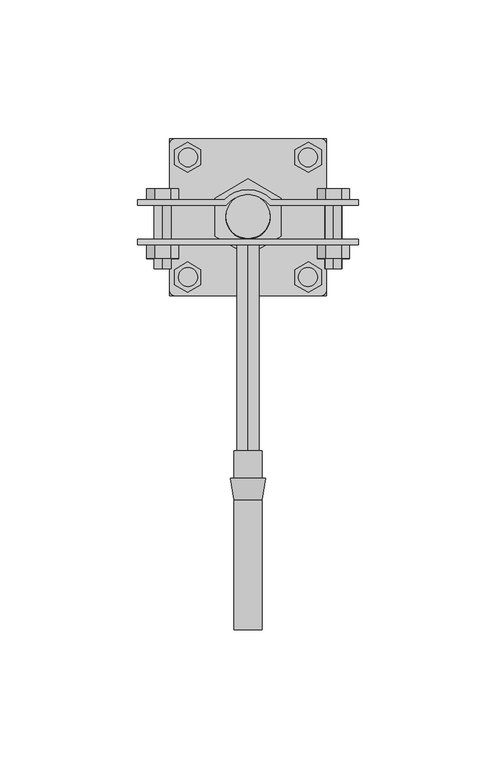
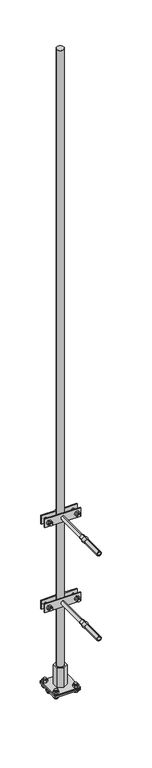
"""IFC4 building model written with IfcOpenShell, lengths in millimetres: proxy geometry, КНС_МолниеприемникСДержателями_DKC : NL7150CU_Медь_1.5м."""

from ifc_helpers import new_model, si_unit, point, frame, frame_2d, origin, origin_with_axes, place, context, project, spatial, polyline, circle_curve, trimmed, segment, composite_curve, outline, extrude, source, transform, mapped, element, save
from ifc_brep_helpers import plane_surface, cylinder_surface, revolved_surface, advanced_brep


def security_devices_15d1bd6b(model_context):
    return source(origin(), model_context, "Body", "SolidModel", [
        extrude(outline(composite_curve([segment(trimmed(circle_curve(frame_2d((0.0, 84.6885885)), 8.0), [point((0.0, 76.6885885))], [point((0.0, 92.6885885))], False, "CARTESIAN"), True, "CONTINUOUS"), segment(trimmed(circle_curve(frame_2d((0.0, 84.6885885)), 8.0), [point((0.0, 92.6885885))], [point((0.0, 76.6885885))], False, "CARTESIAN"), True, "CONTINUOUS")], self_intersect=False)), frame((0.0, 0.0, 2.5), z_axis=(0.0, 0.0, 1.0), x_axis=(1.0, 0.0, 0.0)), (0.0, 0.0, 1.0), 45.0),
        extrude(outline(composite_curve([segment(polyline([(56.1885885, -3.5), (56.1885885, -1.0), (79.6885885, -1.0)]), True, "CONTINUOUS"), segment(trimmed(circle_curve(frame_2d((84.6885885, -1.0)), 5.0), [point((79.6885885, -1.0))], [point((89.6885885, -1.0))], True, "CARTESIAN"), True, "CONTINUOUS"), segment(polyline([(89.6885885, -1.0), (113.1885885, -1.0), (113.1885885, -3.5), (91.7596563, -3.5)]), True, "CONTINUOUS"), segment(trimmed(circle_curve(frame_2d((84.6885885, -1.0)), 7.5), [point((91.7596563, -3.5))], [point((77.6175207, -3.5))], False, "CARTESIAN"), True, "CONTINUOUS"), segment(polyline([(77.6175207, -3.5), (56.1885885, -3.5)]), True, "CONTINUOUS")], self_intersect=False)), frame((-28.5, 0.0, 0.0), z_axis=(1.0, 0.0, 0.0), x_axis=(0.0, 1.0, 0.0)), (0.0, 0.0, 1.0), 57.0),
        extrude(outline(composite_curve([segment(trimmed(circle_curve(frame_2d((-21.78125, 62.9764828)), 3.4209609), [point((-21.78125, 59.5555219))], [point((-21.78125, 66.3974437))], False, "CARTESIAN"), True, "CONTINUOUS"), segment(trimmed(circle_curve(frame_2d((-21.78125, 62.9764828)), 3.4209609), [point((-21.78125, 66.3974437))], [point((-21.78125, 59.5555219))], False, "CARTESIAN"), True, "CONTINUOUS")], self_intersect=False)), frame((0.0, 0.0, -3.5), z_axis=(0.0, 0.0, 1.0), x_axis=(1.0, 0.0, 0.0)), (0.0, 0.0, 1.0), 13.5),
        extrude(outline(composite_curve([segment(trimmed(circle_curve(frame_2d((-21.78125, 106.4006942)), 3.4209609), [point((-21.78125, 102.9797333))], [point((-21.78125, 109.8216551))], False, "CARTESIAN"), True, "CONTINUOUS"), segment(trimmed(circle_curve(frame_2d((-21.78125, 106.4006942)), 3.4209609), [point((-21.78125, 109.8216551))], [point((-21.78125, 102.9797333))], False, "CARTESIAN"), True, "CONTINUOUS")], self_intersect=False)), frame((0.0, 0.0, -3.5), z_axis=(0.0, 0.0, 1.0), x_axis=(1.0, 0.0, 0.0)), (0.0, 0.0, 1.0), 13.5),
        extrude(outline(composite_curve([segment(trimmed(circle_curve(frame_2d((21.78125, 62.9764828)), 3.4209609), [point((21.78125, 59.5555219))], [point((21.78125, 66.3974437))], False, "CARTESIAN"), True, "CONTINUOUS"), segment(trimmed(circle_curve(frame_2d((21.78125, 62.9764828)), 3.4209609), [point((21.78125, 66.3974437))], [point((21.78125, 59.5555219))], False, "CARTESIAN"), True, "CONTINUOUS")], self_intersect=False)), frame((0.0, 0.0, -3.5), z_axis=(0.0, 0.0, 1.0), x_axis=(1.0, 0.0, 0.0)), (0.0, 0.0, 1.0), 13.5),
        extrude(outline(composite_curve([segment(trimmed(circle_curve(frame_2d((21.78125, 106.4006942)), 3.4209609), [point((21.78125, 102.9797333))], [point((21.78125, 109.8216551))], False, "CARTESIAN"), True, "CONTINUOUS"), segment(trimmed(circle_curve(frame_2d((21.78125, 106.4006942)), 3.4209609), [point((21.78125, 109.8216551))], [point((21.78125, 102.9797333))], False, "CARTESIAN"), True, "CONTINUOUS")], self_intersect=False)), frame((0.0, 0.0, -3.5), z_axis=(0.0, 0.0, 1.0), x_axis=(1.0, 0.0, 0.0)), (0.0, 0.0, 1.0), 13.5),
        extrude(outline(polyline([(-21.8883083, 57.4889661), (-26.6406371, 60.2327244), (-26.6406371, 65.7202411), (-21.8883083, 68.4639995), (-17.1359794, 65.7202411), (-17.1359794, 60.2327244), (-21.8883083, 57.4889661)])), frame((0.0, 0.0, 2.5), z_axis=(0.0, 0.0, 1.0), x_axis=(1.0, 0.0, 0.0)), (0.0, 0.0, 1.0), 5.0),
        extrude(outline(polyline([(-21.8883083, 111.8882109), (-17.1359794, 109.1444525), (-17.1359794, 103.6569358), (-21.8883083, 100.9131775), (-26.6406371, 103.6569358), (-26.6406371, 109.1444525), (-21.8883083, 111.8882109)])), frame((0.0, 0.0, 2.5), z_axis=(0.0, 0.0, 1.0), x_axis=(1.0, 0.0, 0.0)), (0.0, 0.0, 1.0), 5.0),
        extrude(outline(polyline([(21.8883083, 57.4889661), (17.1359794, 60.2327244), (17.1359794, 65.7202411), (21.8883083, 68.4639995), (26.6406371, 65.7202411), (26.6406371, 60.2327244), (21.8883083, 57.4889661)])), frame((0.0, 0.0, 2.5), z_axis=(0.0, 0.0, 1.0), x_axis=(1.0, 0.0, 0.0)), (0.0, 0.0, 1.0), 5.0),
        extrude(outline(polyline([(21.8883083, 111.8882109), (26.6406371, 109.1444525), (26.6406371, 103.6569358), (21.8883083, 100.9131775), (17.1359794, 103.6569358), (17.1359794, 109.1444525), (21.8883083, 111.8882109)])), frame((0.0, 0.0, 2.5), z_axis=(0.0, 0.0, 1.0), x_axis=(1.0, 0.0, 0.0)), (0.0, 0.0, 1.0), 5.0),
        extrude(outline(polyline([(-21.8883083, 57.4889661), (-26.6406371, 60.2327244), (-26.6406371, 65.7202411), (-21.8883083, 68.4639995), (-17.1359794, 65.7202411), (-17.1359794, 60.2327244), (-21.8883083, 57.4889661)])), frame((0.0, 0.0, -8.5), z_axis=(0.0, 0.0, 1.0), x_axis=(1.0, 0.0, 0.0)), (0.0, 0.0, 1.0), 5.0),
        extrude(outline(polyline([(-21.8883083, 111.8882109), (-17.1359794, 109.1444525), (-17.1359794, 103.6569358), (-21.8883083, 100.9131775), (-26.6406371, 103.6569358), (-26.6406371, 109.1444525), (-21.8883083, 111.8882109)])), frame((0.0, 0.0, -8.5), z_axis=(0.0, 0.0, 1.0), x_axis=(1.0, 0.0, 0.0)), (0.0, 0.0, 1.0), 5.0),
        extrude(outline(polyline([(21.8883083, 57.4889661), (17.1359794, 60.2327244), (17.1359794, 65.7202411), (21.8883083, 68.4639995), (26.6406371, 65.7202411), (26.6406371, 60.2327244), (21.8883083, 57.4889661)])), frame((0.0, 0.0, -8.5), z_axis=(0.0, 0.0, 1.0), x_axis=(1.0, 0.0, 0.0)), (0.0, 0.0, 1.0), 5.0),
        extrude(outline(polyline([(21.8883083, 111.8882109), (26.6406371, 109.1444525), (26.6406371, 103.6569358), (21.8883083, 100.9131775), (17.1359794, 103.6569358), (17.1359794, 109.1444525), (21.8883083, 111.8882109)])), frame((0.0, 0.0, -8.5), z_axis=(0.0, 0.0, 1.0), x_axis=(1.0, 0.0, 0.0)), (0.0, 0.0, 1.0), 5.0),
        extrude(outline(composite_curve([segment(trimmed(circle_curve(frame_2d((-26.5, 111.1885885)), 2.0), [point((-28.5, 111.1885885))], [point((-26.5, 113.1885885))], False, "CARTESIAN"), True, "CONTINUOUS"), segment(polyline([(-26.5, 113.1885885), (26.5, 113.1885885)]), True, "CONTINUOUS"), segment(trimmed(circle_curve(frame_2d((26.5, 111.1885885)), 2.0), [point((26.5, 113.1885885))], [point((28.5, 111.1885885))], False, "CARTESIAN"), True, "CONTINUOUS"), segment(polyline([(28.5, 111.1885885), (28.5, 58.1885885)]), True, "CONTINUOUS"), segment(trimmed(circle_curve(frame_2d((26.5, 58.1885885)), 2.0), [point((28.5, 58.1885885))], [point((26.5, 56.1885885))], False, "CARTESIAN"), True, "CONTINUOUS"), segment(polyline([(26.5, 56.1885885), (-26.5, 56.1885885)]), True, "CONTINUOUS"), segment(trimmed(circle_curve(frame_2d((-26.5, 58.1885885)), 2.0), [point((-26.5, 56.1885885))], [point((-28.5, 58.1885885))], False, "CARTESIAN"), True, "CONTINUOUS"), segment(polyline([(-28.5, 58.1885885), (-28.5, 111.1885885)]), True, "CONTINUOUS")], self_intersect=False)), origin_with_axes(), (0.0, 0.0, 1.0), 2.5),
        advanced_brep(
        [(-40.0, 74.6885885, 410.0), (40.0, 74.6885885, 410.0), (40.0, 76.6885885, 410.0), (-40.0, 76.6885885, 410.0), (-40.0, 74.6885885, 390.0), (-40.0, 76.6885885, 390.0), (40.0, 76.6885885, 390.0), (40.0, 74.6885885, 390.0), (0.0, 74.6885885, 404.0), (0.0, 74.6885885, 396.0), (0.0, -65.0, 396.0), (0.0, -65.0, 404.0)],
        [
            (0, 1),
            (1, 2),
            (2, 3),
            (3, 0),
            (4, 5),
            (5, 6),
            (6, 7),
            (7, 4),
            (0, 4),
            (7, 1),
            (8, 9, circle_curve(frame((0.0, 74.6885885, 400.0), z_axis=(0.0, 1.0, 0.0), x_axis=(0.0, 0.0, 1.0)), 4.0)),
            (9, 8, circle_curve(frame((0.0, 74.6885885, 400.0), z_axis=(0.0, 1.0, 0.0), x_axis=(0.0, 0.0, 1.0)), 4.0)),
            (6, 2),
            (5, 3),
            (10, 11, circle_curve(frame((0.0, -65.0, 400.0), z_axis=(0.0, -1.0, 0.0), x_axis=(0.0, 0.0, 1.0)), 4.0)),
            (11, 10, circle_curve(frame((0.0, -65.0, 400.0), z_axis=(0.0, -1.0, 0.0), x_axis=(0.0, 0.0, 1.0)), 4.0)),
            (10, 9),
            (8, 11),
        ],
        [
            plane_surface(frame((-40.0, 74.6885885, 410.0), z_axis=(0.0, 0.0, 1.0), x_axis=(1.0, 0.0, 0.0))),
            plane_surface(frame((-40.0, 74.6885885, 390.0), z_axis=(0.0, 0.0, -1.0), x_axis=(-1.0, 0.0, 0.0))),
            plane_surface(frame((-40.0, 74.6885885, 410.0), z_axis=(0.0, -1.0, 0.0), x_axis=(0.0, 0.0, -1.0))),
            plane_surface(frame((40.0, 74.6885885, 410.0), z_axis=(1.0, 0.0, 0.0), x_axis=(0.0, 0.0, -1.0))),
            plane_surface(frame((40.0, 76.6885885, 410.0), z_axis=(0.0, 1.0, 0.0), x_axis=(0.0, 0.0, -1.0))),
            plane_surface(frame((-40.0, 76.6885885, 410.0), z_axis=(-1.0, 0.0, 0.0), x_axis=(0.0, 0.0, -1.0))),
            plane_surface(frame((0.0, -65.0, 404.0), z_axis=(0.0, -1.0, 0.0), x_axis=(-1.0, 0.0, 0.0))),
            cylinder_surface(frame((0.0, 76.6885885, 400.0), z_axis=(0.0, -1.0, 0.0), x_axis=(0.0, 0.0, 1.0)), 4.0),
        ],
        [
            (0, [[1, 2, 3, 4]]),
            (1, [[5, 6, 7, 8]]),
            (2, [[-1, 9, -8, 10], [11, 12]]),
            (3, [[-2, -10, -7, 13]]),
            (4, [[-3, -13, -6, 14]]),
            (5, [[-4, -14, -5, -9]]),
            (6, [[15, 16]]),
            (7, [[-15, 17, -11, 18]]),
            (7, [[-16, -18, -12, -17]]),
        ],
    ),
        advanced_brep(
        [(6.3810583, -10.0, 400.0), (-6.3810583, -10.0, 400.0), (-5.0, -10.0, 400.0), (5.0, -10.0, 400.0), (5.0, -17.8323707, 400.0), (-5.0, -17.8323707, 400.0), (5.0, -65.0, 400.0), (-5.0, -65.0, 400.0), (3.0, -65.0, 400.0), (-3.0, -65.0, 400.0), (3.0, 0.0, 400.0), (-3.0, 0.0, 400.0), (5.0, 0.0, 400.0), (-5.0, 0.0, 400.0)],
        [
            (0, 1, circle_curve(frame((0.0, -10.0, 400.0), z_axis=(0.0, 1.0, 0.0), x_axis=(-1.0, 0.0, 0.0)), 6.3810583)),
            (1, 2),
            (2, 3, circle_curve(frame((0.0, -10.0, 400.0), z_axis=(0.0, -1.0, 0.0), x_axis=(-1.0, 0.0, 0.0)), 5.0)),
            (3, 0),
            (1, 0, circle_curve(frame((0.0, -10.0, 400.0), z_axis=(0.0, 1.0, 0.0), x_axis=(-1.0, 0.0, 0.0)), 6.3810583)),
            (3, 2, circle_curve(frame((0.0, -10.0, 400.0), z_axis=(0.0, -1.0, 0.0), x_axis=(-1.0, 0.0, 0.0)), 5.0)),
            (4, 5, circle_curve(frame((0.0, -17.8323707, 400.0), z_axis=(0.0, 1.0, 0.0), x_axis=(-1.0, 0.0, 0.0)), 5.0)),
            (5, 1),
            (0, 4),
            (5, 4, circle_curve(frame((0.0, -17.8323707, 400.0), z_axis=(0.0, 1.0, 0.0), x_axis=(-1.0, 0.0, 0.0)), 5.0)),
            (6, 7, circle_curve(frame((0.0, -65.0, 400.0), z_axis=(0.0, 1.0, 0.0), x_axis=(-1.0, 0.0, 0.0)), 5.0)),
            (7, 5),
            (4, 6),
            (7, 6, circle_curve(frame((0.0, -65.0, 400.0), z_axis=(0.0, 1.0, 0.0), x_axis=(-1.0, 0.0, 0.0)), 5.0)),
            (8, 9, circle_curve(frame((0.0, -65.0, 400.0), z_axis=(0.0, 1.0, 0.0), x_axis=(-1.0, 0.0, 0.0)), 3.0)),
            (9, 7),
            (6, 8),
            (9, 8, circle_curve(frame((0.0, -65.0, 400.0), z_axis=(0.0, 1.0, 0.0), x_axis=(-1.0, 0.0, 0.0)), 3.0)),
            (10, 11, circle_curve(frame((0.0, 0.0, 400.0), z_axis=(0.0, 1.0, 0.0), x_axis=(-1.0, 0.0, 0.0)), 3.0)),
            (11, 9),
            (8, 10),
            (11, 10, circle_curve(frame((0.0, 0.0, 400.0), z_axis=(0.0, 1.0, 0.0), x_axis=(-1.0, 0.0, 0.0)), 3.0)),
            (12, 13, circle_curve(frame((0.0, 0.0, 400.0), z_axis=(0.0, 1.0, 0.0), x_axis=(-1.0, 0.0, 0.0)), 5.0)),
            (13, 11),
            (10, 12),
            (13, 12, circle_curve(frame((0.0, 0.0, 400.0), z_axis=(0.0, 1.0, 0.0), x_axis=(-1.0, 0.0, 0.0)), 5.0)),
            (2, 13),
            (12, 3),
        ],
        [
            plane_surface(frame((0.0, -10.0, 400.0), z_axis=(0.0, 1.0, 0.0), x_axis=(-1.0, 0.0, 0.0))),
            revolved_surface(polyline([(-6.3810583, -10.0, 400.0), (-5.0, -17.8323707, 400.0)]), (0.0, 2000.0, 400.0), (0.0, -1.0, 0.0)),
            cylinder_surface(frame((0.0, 2000.0, 400.0), z_axis=(0.0, -1.0, 0.0), x_axis=(-1.0, 0.0, 0.0)), 5.0),
            plane_surface(frame((0.0, -65.0, 400.0), z_axis=(0.0, -1.0, 0.0), x_axis=(-1.0, 0.0, 0.0))),
            revolved_surface(polyline([(-3.0, -65.0, 400.0), (-3.0, 0.0, 400.0)]), (0.0, 2000.0, 400.0), (0.0, -1.0, 0.0)),
            plane_surface(frame((0.0, 0.0, 400.0), z_axis=(0.0, 1.0, 0.0), x_axis=(-1.0, 0.0, 0.0))),
        ],
        [
            (0, [[1, 2, 3, 4]]),
            (0, [[5, -4, 6, -2]]),
            (1, [[7, 8, -1, 9]]),
            (1, [[10, -9, -5, -8]]),
            (2, [[11, 12, -7, 13]]),
            (2, [[14, -13, -10, -12]]),
            (3, [[15, 16, -11, 17]]),
            (3, [[18, -17, -14, -16]]),
            (4, [[19, 20, -15, 21]]),
            (4, [[22, -21, -18, -20]]),
            (5, [[23, 24, -19, 25]]),
            (5, [[26, -25, -22, -24]]),
            (2, [[-3, 27, -23, 28]]),
            (2, [[-6, -28, -26, -27]]),
        ],
    ),
        extrude(outline(polyline([(400.0, 36.7735027), (405.0, 33.8867513), (405.0, 28.1132487), (400.0, 25.2264973), (395.0, 28.1132487), (395.0, 33.8867513), (400.0, 36.7735027)])), frame((0.0, 69.6885885, 0.0), z_axis=(0.0, 1.0, 0.0), x_axis=(0.0, 0.0, 1.0)), (0.0, 0.0, 1.0), 5.0),
        extrude(outline(polyline([(400.0, -25.2264973), (405.0, -28.1132487), (405.0, -33.8867513), (400.0, -36.7735027), (395.0, -33.8867513), (395.0, -28.1132487), (400.0, -25.2264973)])), frame((0.0, 69.6885885, 0.0), z_axis=(0.0, 1.0, 0.0), x_axis=(0.0, 0.0, 1.0)), (0.0, 0.0, 1.0), 5.0),
        extrude(outline(composite_curve([segment(trimmed(circle_curve(frame_2d((400.0, 31.0)), 3.0), [point((397.0, 31.0))], [point((403.0, 31.0))], False, "CARTESIAN"), True, "CONTINUOUS"), segment(trimmed(circle_curve(frame_2d((400.0, 31.0)), 3.0), [point((403.0, 31.0))], [point((397.0, 31.0))], False, "CARTESIAN"), True, "CONTINUOUS")], self_intersect=False)), frame((0.0, 66.0, 0.0), z_axis=(0.0, 1.0, 0.0), x_axis=(0.0, 0.0, 1.0)), (0.0, 0.0, 1.0), 25.0),
        extrude(outline(polyline([(400.0, 36.7735027), (405.0, 33.8867513), (405.0, 28.1132487), (400.0, 25.2264973), (395.0, 28.1132487), (395.0, 33.8867513), (400.0, 36.7735027)])), frame((0.0, 91.0, 0.0), z_axis=(0.0, 1.0, 0.0), x_axis=(0.0, 0.0, 1.0)), (0.0, 0.0, 1.0), 4.0),
        extrude(outline(polyline([(400.0, -25.2264973), (405.0, -28.1132487), (405.0, -33.8867513), (400.0, -36.7735027), (395.0, -33.8867513), (395.0, -28.1132487), (400.0, -25.2264973)])), frame((0.0, 91.0, 0.0), z_axis=(0.0, 1.0, 0.0), x_axis=(0.0, 0.0, 1.0)), (0.0, 0.0, 1.0), 4.0),
        extrude(outline(composite_curve([segment(trimmed(circle_curve(frame_2d((400.0, -31.0)), 3.0), [point((397.0, -31.0))], [point((403.0, -31.0))], False, "CARTESIAN"), True, "CONTINUOUS"), segment(trimmed(circle_curve(frame_2d((400.0, -31.0)), 3.0), [point((403.0, -31.0))], [point((397.0, -31.0))], False, "CARTESIAN"), True, "CONTINUOUS")], self_intersect=False)), frame((0.0, 66.0, 0.0), z_axis=(0.0, 1.0, 0.0), x_axis=(0.0, 0.0, 1.0)), (0.0, 0.0, 1.0), 25.0),
        extrude(outline(composite_curve([segment(trimmed(circle_curve(frame_2d((0.0, 82.8700945)), 11.7620306), [point((-8.5, 91.0))], [point((8.5, 91.0))], False, "CARTESIAN"), True, "CONTINUOUS"), segment(polyline([(8.5, 91.0), (40.0, 91.0), (40.0, 89.0), (7.9035116, 89.0)]), True, "CONTINUOUS"), segment(trimmed(circle_curve(frame_2d((0.0, 82.3768959)), 10.3116926), [point((7.9035116, 89.0))], [point((-7.9035116, 89.0))], True, "CARTESIAN"), True, "CONTINUOUS"), segment(polyline([(-7.9035116, 89.0), (-40.0, 89.0), (-40.0, 91.0), (-8.5, 91.0)]), True, "CONTINUOUS")], self_intersect=False)), frame((0.0, 0.0, 390.0), z_axis=(0.0, 0.0, 1.0), x_axis=(1.0, 0.0, 0.0)), (0.0, 0.0, 1.0), 20.0),
        advanced_brep(
        [(-40.0, 74.6885885, 210.0), (40.0, 74.6885885, 210.0), (40.0, 76.6885885, 210.0), (-40.0, 76.6885885, 210.0), (-40.0, 74.6885885, 190.0), (-40.0, 76.6885885, 190.0), (40.0, 76.6885885, 190.0), (40.0, 74.6885885, 190.0), (0.0, 74.6885885, 204.0), (0.0, 74.6885885, 196.0), (0.0, -65.0, 196.0), (0.0, -65.0, 204.0)],
        [
            (0, 1),
            (1, 2),
            (2, 3),
            (3, 0),
            (4, 5),
            (5, 6),
            (6, 7),
            (7, 4),
            (0, 4),
            (7, 1),
            (8, 9, circle_curve(frame((0.0, 74.6885885, 200.0), z_axis=(0.0, 1.0, 0.0), x_axis=(0.0, 0.0, 1.0)), 4.0)),
            (9, 8, circle_curve(frame((0.0, 74.6885885, 200.0), z_axis=(0.0, 1.0, 0.0), x_axis=(0.0, 0.0, 1.0)), 4.0)),
            (6, 2),
            (5, 3),
            (10, 11, circle_curve(frame((0.0, -65.0, 200.0), z_axis=(0.0, -1.0, 0.0), x_axis=(0.0, 0.0, 1.0)), 4.0)),
            (11, 10, circle_curve(frame((0.0, -65.0, 200.0), z_axis=(0.0, -1.0, 0.0), x_axis=(0.0, 0.0, 1.0)), 4.0)),
            (10, 9),
            (8, 11),
        ],
        [
            plane_surface(frame((-40.0, 74.6885885, 210.0), z_axis=(0.0, 0.0, 1.0), x_axis=(1.0, 0.0, 0.0))),
            plane_surface(frame((-40.0, 74.6885885, 190.0), z_axis=(0.0, 0.0, -1.0), x_axis=(-1.0, 0.0, 0.0))),
            plane_surface(frame((-40.0, 74.6885885, 210.0), z_axis=(0.0, -1.0, 0.0), x_axis=(0.0, 0.0, -1.0))),
            plane_surface(frame((40.0, 74.6885885, 210.0), z_axis=(1.0, 0.0, 0.0), x_axis=(0.0, 0.0, -1.0))),
            plane_surface(frame((40.0, 76.6885885, 210.0), z_axis=(0.0, 1.0, 0.0), x_axis=(0.0, 0.0, -1.0))),
            plane_surface(frame((-40.0, 76.6885885, 210.0), z_axis=(-1.0, 0.0, 0.0), x_axis=(0.0, 0.0, -1.0))),
            plane_surface(frame((0.0, -65.0, 204.0), z_axis=(0.0, -1.0, 0.0), x_axis=(-1.0, 0.0, 0.0))),
            cylinder_surface(frame((0.0, 76.6885885, 200.0), z_axis=(0.0, -1.0, 0.0), x_axis=(0.0, 0.0, 1.0)), 4.0),
        ],
        [
            (0, [[1, 2, 3, 4]]),
            (1, [[5, 6, 7, 8]]),
            (2, [[-1, 9, -8, 10], [11, 12]]),
            (3, [[-2, -10, -7, 13]]),
            (4, [[-3, -13, -6, 14]]),
            (5, [[-4, -14, -5, -9]]),
            (6, [[15, 16]]),
            (7, [[-15, 17, -11, 18]]),
            (7, [[-16, -18, -12, -17]]),
        ],
    ),
        advanced_brep(
        [(6.3810583, -10.0, 200.0), (-6.3810583, -10.0, 200.0), (-5.0, -10.0, 200.0), (5.0, -10.0, 200.0), (5.0, -17.8323707, 200.0), (-5.0, -17.8323707, 200.0), (5.0, -65.0, 200.0), (-5.0, -65.0, 200.0), (3.0, -65.0, 200.0), (-3.0, -65.0, 200.0), (3.0, 0.0, 200.0), (-3.0, 0.0, 200.0), (5.0, 0.0, 200.0), (-5.0, 0.0, 200.0)],
        [
            (0, 1, circle_curve(frame((0.0, -10.0, 200.0), z_axis=(0.0, 1.0, 0.0), x_axis=(-1.0, 0.0, 0.0)), 6.3810583)),
            (1, 2),
            (2, 3, circle_curve(frame((0.0, -10.0, 200.0), z_axis=(0.0, -1.0, 0.0), x_axis=(-1.0, 0.0, 0.0)), 5.0)),
            (3, 0),
            (1, 0, circle_curve(frame((0.0, -10.0, 200.0), z_axis=(0.0, 1.0, 0.0), x_axis=(-1.0, 0.0, 0.0)), 6.3810583)),
            (3, 2, circle_curve(frame((0.0, -10.0, 200.0), z_axis=(0.0, -1.0, 0.0), x_axis=(-1.0, 0.0, 0.0)), 5.0)),
            (4, 5, circle_curve(frame((0.0, -17.8323707, 200.0), z_axis=(0.0, 1.0, 0.0), x_axis=(-1.0, 0.0, 0.0)), 5.0)),
            (5, 1),
            (0, 4),
            (5, 4, circle_curve(frame((0.0, -17.8323707, 200.0), z_axis=(0.0, 1.0, 0.0), x_axis=(-1.0, 0.0, 0.0)), 5.0)),
            (6, 7, circle_curve(frame((0.0, -65.0, 200.0), z_axis=(0.0, 1.0, 0.0), x_axis=(-1.0, 0.0, 0.0)), 5.0)),
            (7, 5),
            (4, 6),
            (7, 6, circle_curve(frame((0.0, -65.0, 200.0), z_axis=(0.0, 1.0, 0.0), x_axis=(-1.0, 0.0, 0.0)), 5.0)),
            (8, 9, circle_curve(frame((0.0, -65.0, 200.0), z_axis=(0.0, 1.0, 0.0), x_axis=(-1.0, 0.0, 0.0)), 3.0)),
            (9, 7),
            (6, 8),
            (9, 8, circle_curve(frame((0.0, -65.0, 200.0), z_axis=(0.0, 1.0, 0.0), x_axis=(-1.0, 0.0, 0.0)), 3.0)),
            (10, 11, circle_curve(frame((0.0, 0.0, 200.0), z_axis=(0.0, 1.0, 0.0), x_axis=(-1.0, 0.0, 0.0)), 3.0)),
            (11, 9),
            (8, 10),
            (11, 10, circle_curve(frame((0.0, 0.0, 200.0), z_axis=(0.0, 1.0, 0.0), x_axis=(-1.0, 0.0, 0.0)), 3.0)),
            (12, 13, circle_curve(frame((0.0, 0.0, 200.0), z_axis=(0.0, 1.0, 0.0), x_axis=(-1.0, 0.0, 0.0)), 5.0)),
            (13, 11),
            (10, 12),
            (13, 12, circle_curve(frame((0.0, 0.0, 200.0), z_axis=(0.0, 1.0, 0.0), x_axis=(-1.0, 0.0, 0.0)), 5.0)),
            (2, 13),
            (12, 3),
        ],
        [
            plane_surface(frame((0.0, -10.0, 200.0), z_axis=(0.0, 1.0, 0.0), x_axis=(-1.0, 0.0, 0.0))),
            revolved_surface(polyline([(-6.3810583, -10.0, 200.0), (-5.0, -17.8323707, 200.0)]), (0.0, 2000.0, 200.0), (0.0, -1.0, 0.0)),
            cylinder_surface(frame((0.0, 2000.0, 200.0), z_axis=(0.0, -1.0, 0.0), x_axis=(-1.0, 0.0, 0.0)), 5.0),
            plane_surface(frame((0.0, -65.0, 200.0), z_axis=(0.0, -1.0, 0.0), x_axis=(-1.0, 0.0, 0.0))),
            revolved_surface(polyline([(-3.0, -65.0, 200.0), (-3.0, 0.0, 200.0)]), (0.0, 2000.0, 200.0), (0.0, -1.0, 0.0)),
            plane_surface(frame((0.0, 0.0, 200.0), z_axis=(0.0, 1.0, 0.0), x_axis=(-1.0, 0.0, 0.0))),
        ],
        [
            (0, [[1, 2, 3, 4]]),
            (0, [[5, -4, 6, -2]]),
            (1, [[7, 8, -1, 9]]),
            (1, [[10, -9, -5, -8]]),
            (2, [[11, 12, -7, 13]]),
            (2, [[14, -13, -10, -12]]),
            (3, [[15, 16, -11, 17]]),
            (3, [[18, -17, -14, -16]]),
            (4, [[19, 20, -15, 21]]),
            (4, [[22, -21, -18, -20]]),
            (5, [[23, 24, -19, 25]]),
            (5, [[26, -25, -22, -24]]),
            (2, [[-3, 27, -23, 28]]),
            (2, [[-6, -28, -26, -27]]),
        ],
    ),
        extrude(outline(polyline([(200.0, 36.7735027), (205.0, 33.8867513), (205.0, 28.1132487), (200.0, 25.2264973), (195.0, 28.1132487), (195.0, 33.8867513), (200.0, 36.7735027)])), frame((0.0, 69.6885885, 0.0), z_axis=(0.0, 1.0, 0.0), x_axis=(0.0, 0.0, 1.0)), (0.0, 0.0, 1.0), 5.0),
        extrude(outline(polyline([(200.0, -25.2264973), (205.0, -28.1132487), (205.0, -33.8867513), (200.0, -36.7735027), (195.0, -33.8867513), (195.0, -28.1132487), (200.0, -25.2264973)])), frame((0.0, 69.6885885, 0.0), z_axis=(0.0, 1.0, 0.0), x_axis=(0.0, 0.0, 1.0)), (0.0, 0.0, 1.0), 5.0),
        extrude(outline(composite_curve([segment(trimmed(circle_curve(frame_2d((200.0, 31.0)), 3.0), [point((197.0, 31.0))], [point((203.0, 31.0))], False, "CARTESIAN"), True, "CONTINUOUS"), segment(trimmed(circle_curve(frame_2d((200.0, 31.0)), 3.0), [point((203.0, 31.0))], [point((197.0, 31.0))], False, "CARTESIAN"), True, "CONTINUOUS")], self_intersect=False)), frame((0.0, 66.0, 0.0), z_axis=(0.0, 1.0, 0.0), x_axis=(0.0, 0.0, 1.0)), (0.0, 0.0, 1.0), 25.0),
        extrude(outline(polyline([(200.0, 36.7735027), (205.0, 33.8867513), (205.0, 28.1132487), (200.0, 25.2264973), (195.0, 28.1132487), (195.0, 33.8867513), (200.0, 36.7735027)])), frame((0.0, 91.0, 0.0), z_axis=(0.0, 1.0, 0.0), x_axis=(0.0, 0.0, 1.0)), (0.0, 0.0, 1.0), 4.0),
        extrude(outline(polyline([(200.0, -25.2264973), (205.0, -28.1132487), (205.0, -33.8867513), (200.0, -36.7735027), (195.0, -33.8867513), (195.0, -28.1132487), (200.0, -25.2264973)])), frame((0.0, 91.0, 0.0), z_axis=(0.0, 1.0, 0.0), x_axis=(0.0, 0.0, 1.0)), (0.0, 0.0, 1.0), 4.0),
        extrude(outline(composite_curve([segment(trimmed(circle_curve(frame_2d((200.0, -31.0)), 3.0), [point((197.0, -31.0))], [point((203.0, -31.0))], False, "CARTESIAN"), True, "CONTINUOUS"), segment(trimmed(circle_curve(frame_2d((200.0, -31.0)), 3.0), [point((203.0, -31.0))], [point((197.0, -31.0))], False, "CARTESIAN"), True, "CONTINUOUS")], self_intersect=False)), frame((0.0, 66.0, 0.0), z_axis=(0.0, 1.0, 0.0), x_axis=(0.0, 0.0, 1.0)), (0.0, 0.0, 1.0), 25.0),
        extrude(outline(composite_curve([segment(trimmed(circle_curve(frame_2d((0.0, 82.8700945)), 11.7620306), [point((-8.5, 91.0))], [point((8.5, 91.0))], False, "CARTESIAN"), True, "CONTINUOUS"), segment(polyline([(8.5, 91.0), (40.0, 91.0), (40.0, 89.0), (7.9035116, 89.0)]), True, "CONTINUOUS"), segment(trimmed(circle_curve(frame_2d((0.0, 82.3768959)), 10.3116926), [point((7.9035116, 89.0))], [point((-7.9035116, 89.0))], True, "CARTESIAN"), True, "CONTINUOUS"), segment(polyline([(-7.9035116, 89.0), (-40.0, 89.0), (-40.0, 91.0), (-8.5, 91.0)]), True, "CONTINUOUS")], self_intersect=False)), frame((0.0, 0.0, 190.0), z_axis=(0.0, 0.0, 1.0), x_axis=(1.0, 0.0, 0.0)), (0.0, 0.0, 1.0), 20.0),
        extrude(outline(polyline([(0.0, 98.5449949), (12.0, 91.6167917), (12.0, 77.7603852), (0.0, 70.832182), (-12.0, 77.7603852), (-12.0, 91.6167917), (0.0, 98.5449949)])), frame((0.0, 0.0, 2.5), z_axis=(0.0, 0.0, 1.0), x_axis=(1.0, 0.0, 0.0)), (0.0, 0.0, 1.0), 45.0),
        extrude(outline(composite_curve([segment(trimmed(circle_curve(frame_2d((0.0, 84.6885885)), 8.0), [point((-8.0, 84.6885885))], [point((8.0, 84.6885885))], False, "CARTESIAN"), True, "CONTINUOUS"), segment(trimmed(circle_curve(frame_2d((0.0, 84.6885885)), 8.0), [point((8.0, 84.6885885))], [point((-8.0, 84.6885885))], False, "CARTESIAN"), True, "CONTINUOUS")], self_intersect=False)), origin_with_axes(), (0.0, 0.0, 1.0), 1500.0),
    ])


if __name__ == "__main__":
    model = new_model("IFC4")
    model_context = context("Model", 3, world=origin())
    ifc_project = project(units=[si_unit("LENGTHUNIT", "METRE", prefix="MILLI")], contexts=[model_context])
    site = spatial("IfcSite", under=ifc_project)
    building = spatial("IfcBuilding", under=site)
    placement = place(None, origin())
    security_devices_shape = security_devices_15d1bd6b(model_context)
    element("IfcBuildingElementProxy", 1, Name="КНС_МолниеприемникСДержателями_DKC : NL7150CU_Медь_1.5м", ObjectType="КНС_МолниеприемникСДержателями_DKC : NL7150CU_Медь_1.5м", at=placement, inside=building, context=model_context, shape_type="MappedRepresentation", body=[
        mapped(security_devices_shape, transform((0.0, 0.0, 0.0), x_axis=(1.0, 0.0, 0.0), y_axis=(0.0, 1.0, 0.0), z_axis=(0.0, 0.0, 1.0))),
    ])
    save(model, "model.ifc")
